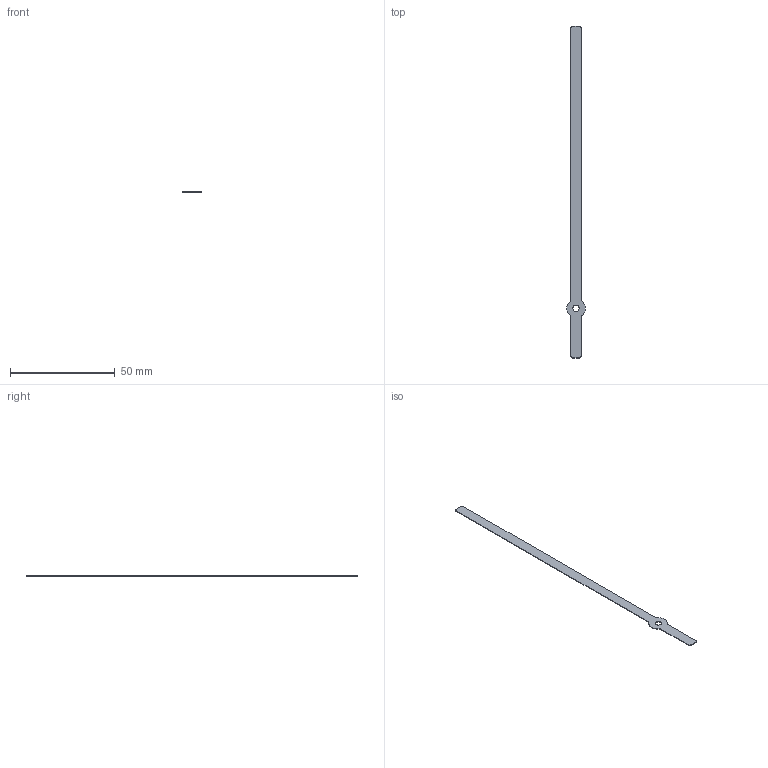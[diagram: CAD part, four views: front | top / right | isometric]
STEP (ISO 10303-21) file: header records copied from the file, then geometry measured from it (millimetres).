
FILE_DESCRIPTION (( 'STEP AP203' ), '1' );
FILE_NAME ('Min Hand.STEP', '2024-12-16T12:09:32', ( '' ), ( '' ), 'SwSTEP 2.0', 'SolidWorks 2018', '' );
FILE_SCHEMA (( 'CONFIG_CONTROL_DESIGN' ));
Length unit declared in the file: millimetre
Products named in the file (1): Min Hand
Bounding box: 8.99 x 158.74 x 0.3 mm (x, y, z)
Volume: 242.1 mm3; surface area: 1715.2 mm2
Topology: 1 solids, 1 shells, 21 faces, 57 edges, 38 vertices
Faces by surface type: cylinder 13, plane 8
Entity records: 758 total; most frequent: DIRECTION 127, CARTESIAN_POINT 117, ORIENTED_EDGE 114, EDGE_CURVE 57, AXIS2_PLACEMENT_3D 48, VERTEX_POINT 38, VECTOR 31, LINE 31
